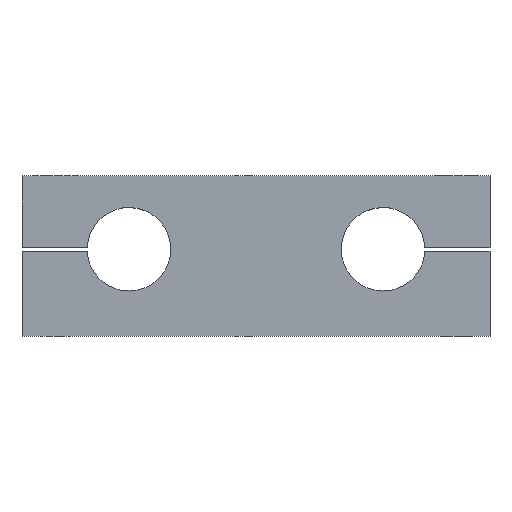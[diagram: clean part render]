
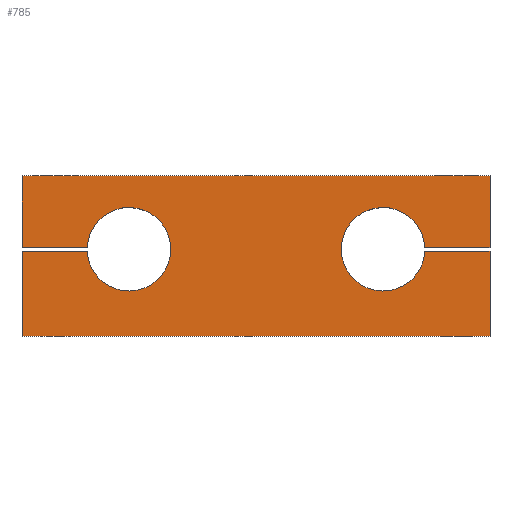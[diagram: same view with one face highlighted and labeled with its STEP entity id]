
A CAD part, top view. The second image highlights one B-rep face of the part: STEP entity #785.
In plain terms, the highlighted planar face has unit normal (0, 0, 1).
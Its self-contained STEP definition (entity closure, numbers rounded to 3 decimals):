
#8 = ORIENTED_EDGE ( 'NONE', *, *, #845, .F. ) ;
#15 = VERTEX_POINT ( 'NONE', #982 ) ;
#20 = CARTESIAN_POINT ( 'NONE',  ( -76., 4., 15. ) ) ;
#22 = ORIENTED_EDGE ( 'NONE', *, *, #164, .T. ) ;
#29 = DIRECTION ( 'NONE',  ( 1., 0., 0. ) ) ;
#36 = ORIENTED_EDGE ( 'NONE', *, *, #563, .F. ) ;
#59 = VECTOR ( 'NONE', #232, 1000. ) ;
#96 = CARTESIAN_POINT ( 'NONE',  ( -100.977, 5.075, 15. ) ) ;
#103 = DIRECTION ( 'NONE',  ( 0., 0., 1. ) ) ;
#109 = CARTESIAN_POINT ( 'NONE',  ( 76., 4., 15. ) ) ;
#130 = CARTESIAN_POINT ( 'NONE',  ( -140., 48., 15. ) ) ;
#139 = VECTOR ( 'NONE', #399, 1000. ) ;
#140 = CARTESIAN_POINT ( 'NONE',  ( -76., 4., 15. ) ) ;
#146 = VERTEX_POINT ( 'NONE', #419 ) ;
#160 = LINE ( 'NONE', #864, #1074 ) ;
#164 = EDGE_CURVE ( 'NONE', #15, #614, #416, .T. ) ;
#167 = CARTESIAN_POINT ( 'NONE',  ( 140., 48., 15. ) ) ;
#188 = DIRECTION ( 'NONE',  ( 1., 0., 0. ) ) ;
#191 = DIRECTION ( 'NONE',  ( 1., 0., 0. ) ) ;
#193 = ORIENTED_EDGE ( 'NONE', *, *, #1033, .T. ) ;
#202 = AXIS2_PLACEMENT_3D ( 'NONE', #140, #216, #821 ) ;
#203 = CARTESIAN_POINT ( 'NONE',  ( -140., 2.925, 15. ) ) ;
#216 = DIRECTION ( 'NONE',  ( 0., 0., 1. ) ) ;
#221 = CARTESIAN_POINT ( 'NONE',  ( 140., 48., 15. ) ) ;
#232 = DIRECTION ( 'NONE',  ( 1., 0., 0. ) ) ;
#241 = VECTOR ( 'NONE', #625, 1000. ) ;
#244 = CIRCLE ( 'NONE', #279, 25. ) ;
#248 = CARTESIAN_POINT ( 'NONE',  ( -140., 5.075, 15. ) ) ;
#249 = ORIENTED_EDGE ( 'NONE', *, *, #952, .F. ) ;
#265 = CARTESIAN_POINT ( 'NONE',  ( 0., 0., 15. ) ) ;
#278 = EDGE_CURVE ( 'NONE', #720, #146, #244, .T. ) ;
#279 = AXIS2_PLACEMENT_3D ( 'NONE', #20, #796, #188 ) ;
#308 = VECTOR ( 'NONE', #846, 1000. ) ;
#314 = CARTESIAN_POINT ( 'NONE',  ( -140., -48., 15. ) ) ;
#318 = LINE ( 'NONE', #558, #59 ) ;
#329 = LINE ( 'NONE', #248, #748 ) ;
#342 = VECTOR ( 'NONE', #749, 1000. ) ;
#343 = AXIS2_PLACEMENT_3D ( 'NONE', #265, #103, #29 ) ;
#346 = DIRECTION ( 'NONE',  ( 0., -1., 0. ) ) ;
#350 = DIRECTION ( 'NONE',  ( 0., 0., 1. ) ) ;
#364 = VERTEX_POINT ( 'NONE', #789 ) ;
#388 = DIRECTION ( 'NONE',  ( 0., -1., 0. ) ) ;
#393 = LINE ( 'NONE', #757, #342 ) ;
#395 = ORIENTED_EDGE ( 'NONE', *, *, #828, .F. ) ;
#399 = DIRECTION ( 'NONE',  ( 0., 1., 0. ) ) ;
#412 = DIRECTION ( 'NONE',  ( -1., 0., 0. ) ) ;
#416 = LINE ( 'NONE', #167, #139 ) ;
#417 = CARTESIAN_POINT ( 'NONE',  ( -140., 48., 15. ) ) ;
#418 = VERTEX_POINT ( 'NONE', #96 ) ;
#419 = CARTESIAN_POINT ( 'NONE',  ( -51., 4., 15. ) ) ;
#423 = CIRCLE ( 'NONE', #202, 25. ) ;
#434 = ORIENTED_EDGE ( 'NONE', *, *, #685, .F. ) ;
#445 = VERTEX_POINT ( 'NONE', #815 ) ;
#461 = EDGE_LOOP ( 'NONE', ( #753, #249, #496, #8, #694, #703, #193, #36, #395, #434, #22, #899, #634 ) ) ;
#489 = CARTESIAN_POINT ( 'NONE',  ( 140., 48., 15. ) ) ;
#496 = ORIENTED_EDGE ( 'NONE', *, *, #278, .F. ) ;
#499 = AXIS2_PLACEMENT_3D ( 'NONE', #109, #350, #191 ) ;
#507 = CARTESIAN_POINT ( 'NONE',  ( -140., 2.925, 15. ) ) ;
#512 = DIRECTION ( 'NONE',  ( -1., 0., 0. ) ) ;
#518 = LINE ( 'NONE', #525, #799 ) ;
#525 = CARTESIAN_POINT ( 'NONE',  ( -140., 48., 15. ) ) ;
#558 = CARTESIAN_POINT ( 'NONE',  ( -140., -48., 15. ) ) ;
#563 = EDGE_CURVE ( 'NONE', #603, #935, #393, .T. ) ;
#575 = VECTOR ( 'NONE', #388, 1000. ) ;
#586 = CARTESIAN_POINT ( 'NONE',  ( 100.977, 2.925, 15. ) ) ;
#603 = VERTEX_POINT ( 'NONE', #586 ) ;
#614 = VERTEX_POINT ( 'NONE', #489 ) ;
#617 = CIRCLE ( 'NONE', #499, 25. ) ;
#625 = DIRECTION ( 'NONE',  ( 1., 0., 0. ) ) ;
#632 = EDGE_CURVE ( 'NONE', #725, #445, #160, .T. ) ;
#634 = ORIENTED_EDGE ( 'NONE', *, *, #632, .T. ) ;
#651 = VERTEX_POINT ( 'NONE', #507 ) ;
#661 = CARTESIAN_POINT ( 'NONE',  ( 140., 2.925, 15. ) ) ;
#685 = EDGE_CURVE ( 'NONE', #15, #1067, #1110, .T. ) ;
#694 = ORIENTED_EDGE ( 'NONE', *, *, #966, .T. ) ;
#703 = ORIENTED_EDGE ( 'NONE', *, *, #934, .T. ) ;
#715 = EDGE_CURVE ( 'NONE', #418, #445, #329, .T. ) ;
#716 = LINE ( 'NONE', #203, #241 ) ;
#720 = VERTEX_POINT ( 'NONE', #868 ) ;
#725 = VERTEX_POINT ( 'NONE', #417 ) ;
#748 = VECTOR ( 'NONE', #512, 1000. ) ;
#749 = DIRECTION ( 'NONE',  ( 1., 0., 0. ) ) ;
#753 = ORIENTED_EDGE ( 'NONE', *, *, #715, .F. ) ;
#755 = CARTESIAN_POINT ( 'NONE',  ( 100.977, 5.075, 15. ) ) ;
#757 = CARTESIAN_POINT ( 'NONE',  ( 75., 2.925, 15. ) ) ;
#785 = ADVANCED_FACE ( 'NONE', ( #895 ), #1050, .T. ) ;
#789 = CARTESIAN_POINT ( 'NONE',  ( 140., -48., 15. ) ) ;
#796 = DIRECTION ( 'NONE',  ( 0., 0., 1. ) ) ;
#799 = VECTOR ( 'NONE', #880, 1000. ) ;
#815 = CARTESIAN_POINT ( 'NONE',  ( -140., 5.075, 15. ) ) ;
#819 = VECTOR ( 'NONE', #412, 1000. ) ;
#821 = DIRECTION ( 'NONE',  ( 1., 0., 0. ) ) ;
#828 = EDGE_CURVE ( 'NONE', #1067, #603, #617, .T. ) ;
#845 = EDGE_CURVE ( 'NONE', #651, #720, #716, .T. ) ;
#846 = DIRECTION ( 'NONE',  ( 0., 1., 0. ) ) ;
#850 = EDGE_CURVE ( 'NONE', #614, #725, #518, .T. ) ;
#864 = CARTESIAN_POINT ( 'NONE',  ( -140., 48., 15. ) ) ;
#868 = CARTESIAN_POINT ( 'NONE',  ( -100.977, 2.925, 15. ) ) ;
#880 = DIRECTION ( 'NONE',  ( -1., 0., 0. ) ) ;
#895 = FACE_OUTER_BOUND ( 'NONE', #461, .T. ) ;
#899 = ORIENTED_EDGE ( 'NONE', *, *, #850, .T. ) ;
#920 = LINE ( 'NONE', #130, #575 ) ;
#934 = EDGE_CURVE ( 'NONE', #1038, #364, #318, .T. ) ;
#935 = VERTEX_POINT ( 'NONE', #661 ) ;
#952 = EDGE_CURVE ( 'NONE', #146, #418, #423, .T. ) ;
#966 = EDGE_CURVE ( 'NONE', #651, #1038, #920, .T. ) ;
#982 = CARTESIAN_POINT ( 'NONE',  ( 140., 5.075, 15. ) ) ;
#998 = LINE ( 'NONE', #221, #308 ) ;
#1033 = EDGE_CURVE ( 'NONE', #364, #935, #998, .T. ) ;
#1038 = VERTEX_POINT ( 'NONE', #314 ) ;
#1041 = CARTESIAN_POINT ( 'NONE',  ( 75., 5.075, 15. ) ) ;
#1050 = PLANE ( 'NONE',  #343 ) ;
#1067 = VERTEX_POINT ( 'NONE', #755 ) ;
#1074 = VECTOR ( 'NONE', #346, 1000. ) ;
#1110 = LINE ( 'NONE', #1041, #819 ) ;
